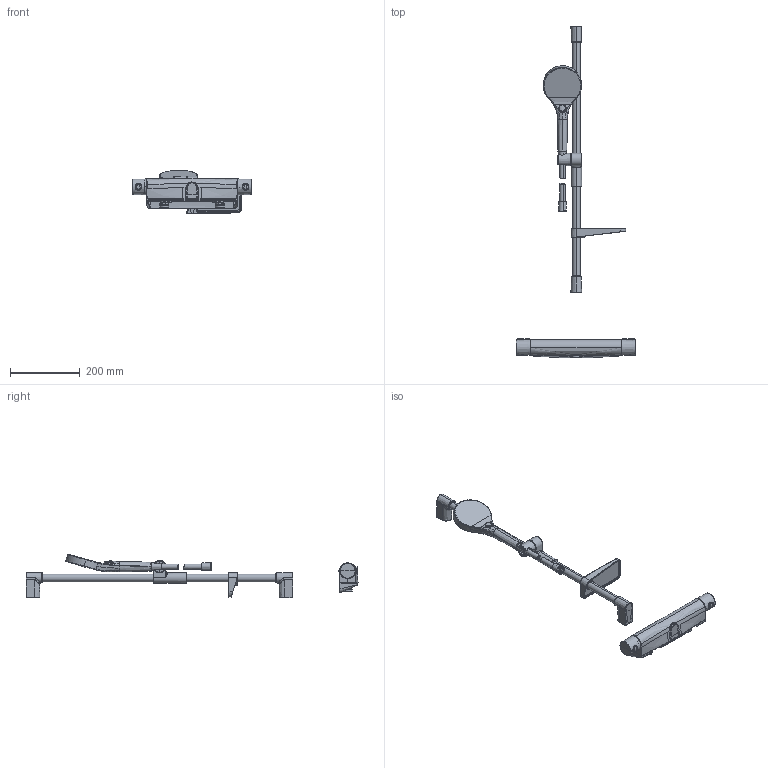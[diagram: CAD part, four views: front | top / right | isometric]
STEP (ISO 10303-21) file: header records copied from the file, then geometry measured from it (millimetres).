
FILE_DESCRIPTION (( 'STEP AP203' ), '1' );
FILE_NAME ('7158-109(2023).STEP', '2023-03-27T10:39:25', ( '' ), ( '' ), 'SwSTEP 2.0', 'SolidWorks 2016', '' );
FILE_SCHEMA (( 'CONFIG_CONTROL_DESIGN' ));
Length unit declared in the file: millimetre
Products named in the file (1): 7158-109(2023)
Bounding box: 342.5 x 952.31 x 124.35 mm (x, y, z)
Volume: 1884348.5 mm3; surface area: 324163.5 mm2
Topology: 23 solids, 24 shells, 4030 faces, 9461 edges, 5348 vertices
Faces by surface type: bspline 1978, cylinder 1167, plane 516, cone 313, torus 44, sphere 12
Entity records: 197688 total; most frequent: CARTESIAN_POINT 126253, ORIENTED_EDGE 18638, EDGE_CURVE 9319, DIRECTION 9076, B_SPLINE_CURVE_WITH_KNOTS 5608, VERTEX_POINT 5349, EDGE_LOOP 4066, ADVANCED_FACE 4032
